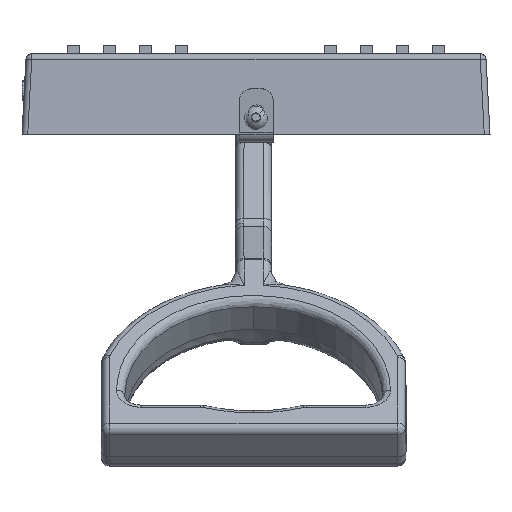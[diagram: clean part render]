
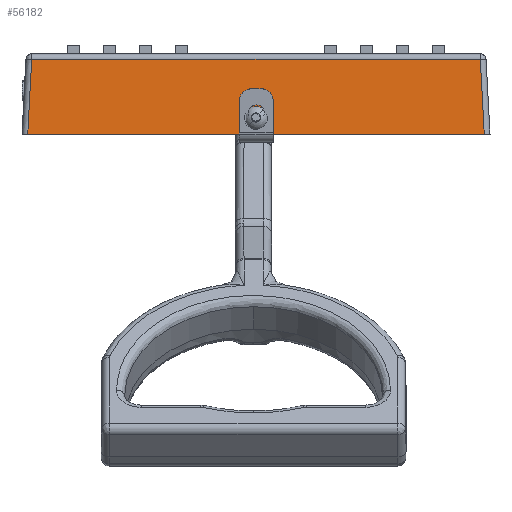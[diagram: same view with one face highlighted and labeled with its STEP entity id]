
A CAD part, front view. The second image highlights one B-rep face of the part: STEP entity #56182.
In plain terms, the highlighted planar face has unit normal (0, -0.999, 0.052).
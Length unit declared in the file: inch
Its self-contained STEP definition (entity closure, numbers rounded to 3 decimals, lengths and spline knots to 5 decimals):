
#18 = CIRCLE ( 'NONE', #1043, 0.07475 ) ;
#746 = LINE ( 'NONE', #51544, #55566 ) ;
#890 = CARTESIAN_POINT ( 'NONE',  ( -3.645, -3.0625, 0. ) ) ;
#1043 = AXIS2_PLACEMENT_3D ( 'NONE', #42235, #66123, #18581 ) ;
#1806 = VECTOR ( 'NONE', #25038, 39.37008 ) ;
#3752 = CARTESIAN_POINT ( 'NONE',  ( 3.53546, -3.04283, 0.37528 ) ) ;
#4628 = LINE ( 'NONE', #890, #1806 ) ;
#5214 = DIRECTION ( 'NONE',  ( 0., -0.999, 0.052 ) ) ;
#8207 = LINE ( 'NONE', #3752, #77069 ) ;
#8297 = CARTESIAN_POINT ( 'NONE',  ( 3.49408, -3.00146, 1.16471 ) ) ;
#10943 = ORIENTED_EDGE ( 'NONE', *, *, #37478, .F. ) ;
#12299 = VERTEX_POINT ( 'NONE', #8297 ) ;
#13290 = VERTEX_POINT ( 'NONE', #37839 ) ;
#13660 = ORIENTED_EDGE ( 'NONE', *, *, #17676, .T. ) ;
#14919 = DIRECTION ( 'NONE',  ( -1., 0., 0. ) ) ;
#17676 = EDGE_CURVE ( 'NONE', #67800, #13290, #52191, .T. ) ;
#18581 = DIRECTION ( 'NONE',  ( 0., -0.052, -0.999 ) ) ;
#18878 = ORIENTED_EDGE ( 'NONE', *, *, #73803, .T. ) ;
#18943 = DIRECTION ( 'NONE',  ( 0., -0.999, 0.052 ) ) ;
#20605 = VECTOR ( 'NONE', #66979, 39.37008 ) ;
#25038 = DIRECTION ( 'NONE',  ( 1., 0., 0. ) ) ;
#29734 = CARTESIAN_POINT ( 'NONE',  ( 3.55512, -3.0625, 0. ) ) ;
#31992 = CARTESIAN_POINT ( 'NONE',  ( -3.49408, -3.00146, 1.16471 ) ) ;
#33821 = VERTEX_POINT ( 'NONE', #29734 ) ;
#36843 = CARTESIAN_POINT ( 'NONE',  ( 0., -3.05333, 0.17501 ) ) ;
#37363 = CARTESIAN_POINT ( 'NONE',  ( 0., -3.0455, 0.3243 ) ) ;
#37478 = EDGE_CURVE ( 'NONE', #59373, #63607, #55965, .T. ) ;
#37839 = CARTESIAN_POINT ( 'NONE',  ( -3.55512, -3.0625, 0. ) ) ;
#39240 = FACE_OUTER_BOUND ( 'NONE', #75976, .T. ) ;
#40684 = ORIENTED_EDGE ( 'NONE', *, *, #72789, .T. ) ;
#42235 = CARTESIAN_POINT ( 'NONE',  ( 0., -3.04942, 0.24966 ) ) ;
#42846 = PLANE ( 'NONE',  #51790 ) ;
#44882 = AXIS2_PLACEMENT_3D ( 'NONE', #76413, #5214, #64436 ) ;
#45341 = EDGE_LOOP ( 'NONE', ( #10943, #71619 ) ) ;
#51544 = CARTESIAN_POINT ( 'NONE',  ( -3.645, -3.00146, 1.16471 ) ) ;
#51790 = AXIS2_PLACEMENT_3D ( 'NONE', #55268, #18943, #66503 ) ;
#52191 = LINE ( 'NONE', #67756, #20605 ) ;
#54975 = FACE_BOUND ( 'NONE', #45341, .T. ) ;
#55268 = CARTESIAN_POINT ( 'NONE',  ( -3.645, -3.0625, 0. ) ) ;
#55566 = VECTOR ( 'NONE', #14919, 39.37008 ) ;
#55965 = CIRCLE ( 'NONE', #44882, 0.07475 ) ;
#56182 = ADVANCED_FACE ( 'NONE', ( #54975, #39240 ), #42846, .T. ) ;
#57958 = EDGE_CURVE ( 'NONE', #63607, #59373, #18, .T. ) ;
#59373 = VERTEX_POINT ( 'NONE', #36843 ) ;
#63607 = VERTEX_POINT ( 'NONE', #37363 ) ;
#64436 = DIRECTION ( 'NONE',  ( 0., -0.052, -0.999 ) ) ;
#66123 = DIRECTION ( 'NONE',  ( 0., -0.999, 0.052 ) ) ;
#66503 = DIRECTION ( 'NONE',  ( 0., -0.052, -0.999 ) ) ;
#66979 = DIRECTION ( 'NONE',  ( -0.052, -0.052, -0.997 ) ) ;
#67756 = CARTESIAN_POINT ( 'NONE',  ( -3.55537, -3.06275, -0.00468 ) ) ;
#67800 = VERTEX_POINT ( 'NONE', #31992 ) ;
#68196 = DIRECTION ( 'NONE',  ( -0.052, 0.052, 0.997 ) ) ;
#71619 = ORIENTED_EDGE ( 'NONE', *, *, #57958, .F. ) ;
#72789 = EDGE_CURVE ( 'NONE', #13290, #33821, #4628, .T. ) ;
#73803 = EDGE_CURVE ( 'NONE', #33821, #12299, #8207, .T. ) ;
#74612 = EDGE_CURVE ( 'NONE', #12299, #67800, #746, .T. ) ;
#75612 = ORIENTED_EDGE ( 'NONE', *, *, #74612, .T. ) ;
#75976 = EDGE_LOOP ( 'NONE', ( #75612, #13660, #40684, #18878 ) ) ;
#76413 = CARTESIAN_POINT ( 'NONE',  ( 0., -3.04942, 0.24966 ) ) ;
#77069 = VECTOR ( 'NONE', #68196, 39.37008 ) ;
